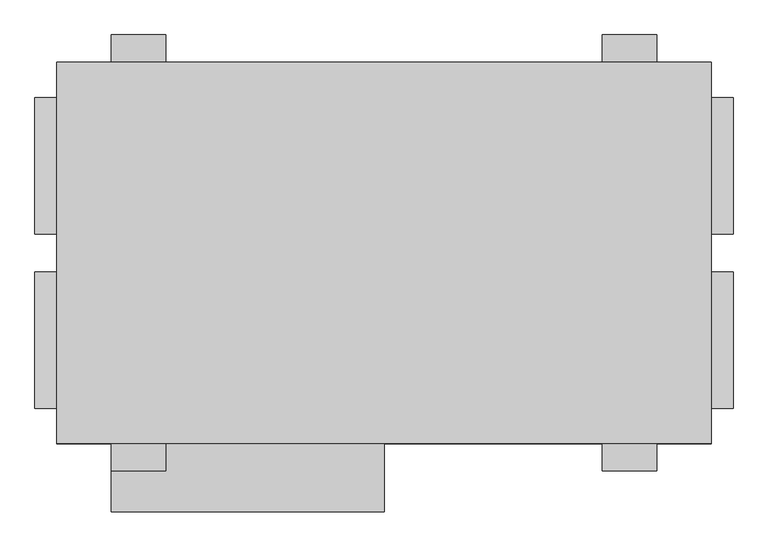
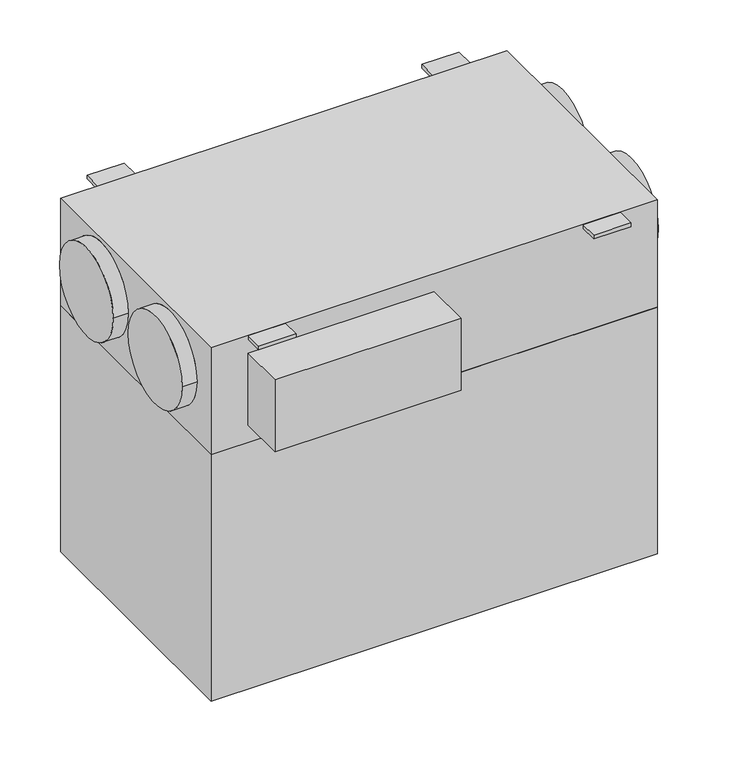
"""IFC4 building model written with IfcOpenShell, lengths in millimetres: proxy geometry, ADSK_КПВУ BRISSAGO CPE_круглая : Brissago CPE 800."""

from ifc_helpers import new_model, si_unit, frame, origin, place, context, project, spatial, polyline, circle_curve, outline, extrude, source, transform, mapped, element, save
from ifc_brep_helpers import plane_surface, cylinder_surface, advanced_brep


def mechanical_equipment_20e742c8(model_context):
    return source(origin(), model_context, "Body", "SolidModel", [
        extrude(outline(polyline([(866.0, 350.0), (866.0, -350.0), (-334.0, -350.0), (-334.0, 350.0), (866.0, 350.0)])), frame((0.0, 0.0, -854.0), z_axis=(0.0, 0.0, 1.0), x_axis=(1.0, 0.0, 0.0)), (0.0, 0.0, 1.0), 700.0),
        advanced_brep(
        [(866.0, -350.0, 150.0), (866.0, -350.0, -154.0), (866.0, 350.0, -154.0), (866.0, 350.0, 150.0), (866.0, -35.0, 15.0), (866.0, -285.0, 15.0), (866.0, 285.0, 15.0), (866.0, 35.0, 15.0), (-334.0, -350.0, 150.0), (-334.0, 350.0, 150.0), (-334.0, 350.0, -154.0), (-334.0, -350.0, -154.0), (-334.0, -35.0, 15.0), (-334.0, -285.0, 15.0), (-334.0, 35.0, 15.0), (-334.0, 285.0, 15.0), (-374.0, -285.0, 15.0), (-374.0, -35.0, 15.0), (-374.0, 35.0, 15.0), (-374.0, 285.0, 15.0), (-234.0, -350.0, 100.0), (266.0, -350.0, 100.0), (266.0, -350.0, -104.0), (-234.0, -350.0, -104.0), (906.0, -285.0, 15.0), (906.0, -35.0, 15.0), (906.0, 35.0, 15.0), (906.0, 285.0, 15.0), (-234.0, -475.0, 100.0), (266.0, -475.0, 100.0), (266.0, -475.0, -104.0), (-234.0, -475.0, -104.0)],
        [
            (0, 1),
            (1, 2),
            (2, 3),
            (3, 0),
            (4, 5, circle_curve(frame((866.0, -160.0, 15.0), z_axis=(-1.0, 0.0, 0.0), x_axis=(0.0, 1.0, 0.0)), 125.0)),
            (5, 4, circle_curve(frame((866.0, -160.0, 15.0), z_axis=(-1.0, 0.0, 0.0), x_axis=(0.0, 1.0, 0.0)), 125.0)),
            (6, 7, circle_curve(frame((866.0, 160.0, 15.0), z_axis=(-1.0, 0.0, 0.0), x_axis=(0.0, 1.0, 0.0)), 125.0)),
            (7, 6, circle_curve(frame((866.0, 160.0, 15.0), z_axis=(-1.0, 0.0, 0.0), x_axis=(0.0, 1.0, 0.0)), 125.0)),
            (8, 9),
            (9, 10),
            (10, 11),
            (11, 8),
            (12, 13, circle_curve(frame((-334.0, -160.0, 15.0), z_axis=(1.0, 0.0, 0.0), x_axis=(0.0, 1.0, 0.0)), 125.0)),
            (13, 12, circle_curve(frame((-334.0, -160.0, 15.0), z_axis=(1.0, 0.0, 0.0), x_axis=(0.0, 1.0, 0.0)), 125.0)),
            (14, 15, circle_curve(frame((-334.0, 160.0, 15.0), z_axis=(1.0, 0.0, 0.0), x_axis=(0.0, 1.0, 0.0)), 125.0)),
            (15, 14, circle_curve(frame((-334.0, 160.0, 15.0), z_axis=(1.0, 0.0, 0.0), x_axis=(0.0, 1.0, 0.0)), 125.0)),
            (16, 17, circle_curve(frame((-374.0, -160.0, 15.0), z_axis=(-1.0, 0.0, 0.0), x_axis=(0.0, 1.0, 0.0)), 125.0)),
            (17, 16, circle_curve(frame((-374.0, -160.0, 15.0), z_axis=(-1.0, 0.0, 0.0), x_axis=(0.0, 1.0, 0.0)), 125.0)),
            (18, 19, circle_curve(frame((-374.0, 160.0, 15.0), z_axis=(-1.0, 0.0, 0.0), x_axis=(0.0, 1.0, 0.0)), 125.0)),
            (19, 18, circle_curve(frame((-374.0, 160.0, 15.0), z_axis=(-1.0, 0.0, 0.0), x_axis=(0.0, 1.0, 0.0)), 125.0)),
            (0, 8),
            (11, 1),
            (20, 21),
            (21, 22),
            (22, 23),
            (23, 20),
            (10, 2),
            (9, 3),
            (16, 13),
            (12, 17),
            (24, 25, circle_curve(frame((906.0, -160.0, 15.0), z_axis=(1.0, 0.0, 0.0), x_axis=(0.0, 1.0, 0.0)), 125.0)),
            (25, 24, circle_curve(frame((906.0, -160.0, 15.0), z_axis=(1.0, 0.0, 0.0), x_axis=(0.0, 1.0, 0.0)), 125.0)),
            (26, 27, circle_curve(frame((906.0, 160.0, 15.0), z_axis=(1.0, 0.0, 0.0), x_axis=(0.0, 1.0, 0.0)), 125.0)),
            (27, 26, circle_curve(frame((906.0, 160.0, 15.0), z_axis=(1.0, 0.0, 0.0), x_axis=(0.0, 1.0, 0.0)), 125.0)),
            (24, 5),
            (4, 25),
            (19, 15),
            (14, 18),
            (26, 7),
            (6, 27),
            (20, 28),
            (28, 29),
            (29, 21),
            (22, 30),
            (30, 31),
            (31, 23),
            (31, 28),
            (30, 29),
        ],
        [
            plane_surface(frame((866.0, -350.0, 150.0), z_axis=(1.0, 0.0, 0.0), x_axis=(0.0, 0.0, -1.0))),
            plane_surface(frame((-334.0, -350.0, 150.0), z_axis=(-1.0, 0.0, 0.0), x_axis=(0.0, 0.0, 1.0))),
            plane_surface(frame((-374.0, -35.0, 15.0), z_axis=(-1.0, 0.0, 0.0), x_axis=(0.0, 0.0, -1.0))),
            plane_surface(frame((866.0, -350.0, 150.0), z_axis=(0.0, -1.0, 0.0), x_axis=(-1.0, 0.0, 0.0))),
            plane_surface(frame((866.0, -350.0, -154.0), z_axis=(0.0, 0.0, -1.0), x_axis=(-1.0, 0.0, 0.0))),
            plane_surface(frame((866.0, 350.0, -154.0), z_axis=(0.0, 1.0, 0.0), x_axis=(-1.0, 0.0, 0.0))),
            plane_surface(frame((866.0, 350.0, 150.0), z_axis=(0.0, 0.0, 1.0), x_axis=(-1.0, 0.0, 0.0))),
            cylinder_surface(frame((-374.0, -160.0, 15.0), z_axis=(1.0, 0.0, 0.0), x_axis=(0.0, 1.0, 0.0)), 125.0),
            plane_surface(frame((906.0, -35.0, 15.0), z_axis=(1.0, 0.0, 0.0), x_axis=(0.0, 0.0, 1.0))),
            cylinder_surface(frame((866.0, -160.0, 15.0), z_axis=(1.0, 0.0, 0.0), x_axis=(0.0, 1.0, 0.0)), 125.0),
            cylinder_surface(frame((-374.0, 160.0, 15.0), z_axis=(1.0, 0.0, 0.0), x_axis=(0.0, 1.0, 0.0)), 125.0),
            cylinder_surface(frame((866.0, 160.0, 15.0), z_axis=(1.0, 0.0, 0.0), x_axis=(0.0, 1.0, 0.0)), 125.0),
            plane_surface(frame((-234.0, -350.0, 100.0), z_axis=(0.0, 0.0, 1.0), x_axis=(-1.0, 0.0, 0.0))),
            plane_surface(frame((-234.0, -350.0, -104.0), z_axis=(0.0, 0.0, -1.0), x_axis=(1.0, 0.0, 0.0))),
            plane_surface(frame((-234.0, -350.0, 100.0), z_axis=(-1.0, 0.0, 0.0), x_axis=(0.0, 0.0, -1.0))),
            plane_surface(frame((-234.0, -475.0, 100.0), z_axis=(0.0, -1.0, 0.0), x_axis=(0.0, 0.0, -1.0))),
            plane_surface(frame((266.0, -475.0, 100.0), z_axis=(1.0, 0.0, 0.0), x_axis=(0.0, 0.0, -1.0))),
        ],
        [
            (0, [[1, 2, 3, 4], [5, 6], [7, 8]]),
            (1, [[9, 10, 11, 12], [13, 14], [15, 16]]),
            (2, [[17, 18]]),
            (2, [[19, 20]]),
            (3, [[-1, 21, -12, 22], [23, 24, 25, 26]]),
            (4, [[-2, -22, -11, 27]]),
            (5, [[-3, -27, -10, 28]]),
            (6, [[-4, -28, -9, -21]]),
            (7, [[-17, 29, -13, 30]]),
            (7, [[-18, -30, -14, -29]]),
            (8, [[31, 32]]),
            (8, [[33, 34]]),
            (9, [[-31, 35, -5, 36]]),
            (9, [[-32, -36, -6, -35]]),
            (10, [[-20, 37, -15, 38]]),
            (10, [[-19, -38, -16, -37]]),
            (11, [[-33, 39, -7, 40]]),
            (11, [[-34, -40, -8, -39]]),
            (12, [[41, 42, 43, -23]]),
            (13, [[44, 45, 46, -25]]),
            (14, [[-41, -26, -46, 47]]),
            (15, [[-42, -47, -45, 48]]),
            (16, [[-43, -48, -44, -24]]),
        ],
    ),
        extrude(outline(polyline([(-134.0, 400.0), (-134.0, 350.0), (-234.0, 350.0), (-234.0, 400.0), (-134.0, 400.0)])), frame((0.0, 0.0, 140.0), z_axis=(0.0, 0.0, 1.0), x_axis=(1.0, 0.0, 0.0)), (0.0, 0.0, 1.0), 10.0),
        extrude(outline(polyline([(666.0, 400.0), (766.0, 400.0), (766.0, 350.0), (666.0, 350.0), (666.0, 400.0)])), frame((0.0, 0.0, 140.0), z_axis=(0.0, 0.0, 1.0), x_axis=(1.0, 0.0, 0.0)), (0.0, 0.0, 1.0), 10.0),
        extrude(outline(polyline([(-134.0, -400.0), (-234.0, -400.0), (-234.0, -350.0), (-134.0, -350.0), (-134.0, -400.0)])), frame((0.0, 0.0, 140.0), z_axis=(0.0, 0.0, 1.0), x_axis=(1.0, 0.0, 0.0)), (0.0, 0.0, 1.0), 10.0),
        extrude(outline(polyline([(666.0, -400.0), (666.0, -350.0), (766.0, -350.0), (766.0, -400.0), (666.0, -400.0)])), frame((0.0, 0.0, 140.0), z_axis=(0.0, 0.0, 1.0), x_axis=(1.0, 0.0, 0.0)), (0.0, 0.0, 1.0), 10.0),
    ])


if __name__ == "__main__":
    model = new_model("IFC4")
    model_context = context("Model", 3, world=origin())
    ifc_project = project(units=[si_unit("LENGTHUNIT", "METRE", prefix="MILLI")], contexts=[model_context])
    site = spatial("IfcSite", under=ifc_project)
    building = spatial("IfcBuilding", under=site)
    placement = place(None, origin())
    mechanical_equipment_shape = mechanical_equipment_20e742c8(model_context)
    element("IfcBuildingElementProxy", 1, Name="ADSK_КПВУ BRISSAGO CPE_круглая : Brissago CPE 800", ObjectType="ADSK_КПВУ BRISSAGO CPE_круглая : Brissago CPE 800", at=placement, inside=building, context=model_context, shape_type="MappedRepresentation", body=[
        mapped(mechanical_equipment_shape, transform((0.0, 0.0, 0.0), x_axis=(1.0, 0.0, 0.0), y_axis=(0.0, 1.0, 0.0), z_axis=(0.0, 0.0, 1.0))),
    ])
    save(model, "model.ifc")
